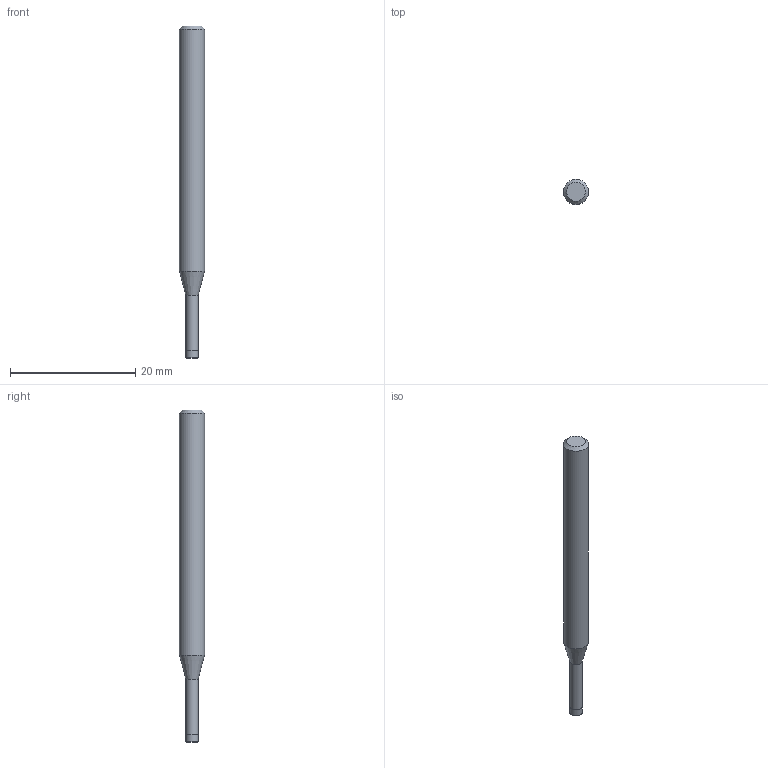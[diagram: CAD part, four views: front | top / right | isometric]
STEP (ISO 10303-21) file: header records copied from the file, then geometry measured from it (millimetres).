
FILE_DESCRIPTION((''),'2;1');
FILE_NAME('C:\Users\nsx150\AppData\Local\Temp\Mastercam 2021\LJSIDMOTM8\TEMP.step','2021-08-03T14:05:50',(''),(''),'STEP Write','Mastercam 2021 ... CNC Software, Inc.','');
FILE_SCHEMA(('AUTOMOTIVE_DESIGN'));
Length unit declared in the file: millimetre
Products named in the file (1): None
Bounding box: 4 x 4 x 53 mm (x, y, z)
Volume: 548.1 mm3; surface area: 608 mm2
Topology: 2 solids, 2 shells, 10 faces, 14 edges, 8 vertices
Faces by surface type: plane 4, cylinder 3, cone 2, torus 1
Full cylindrical faces by diameter (mm): 1.94 x1, 2 x1, 4 x1
Entity records: 232 total; most frequent: DIRECTION 40, CARTESIAN_POINT 28, AXIS2_PLACEMENT_3D 20, ORIENTED_EDGE 16, EDGE_LOOP 16, STYLED_ITEM 13, ADVANCED_FACE 10, FACE_BOUND 10
